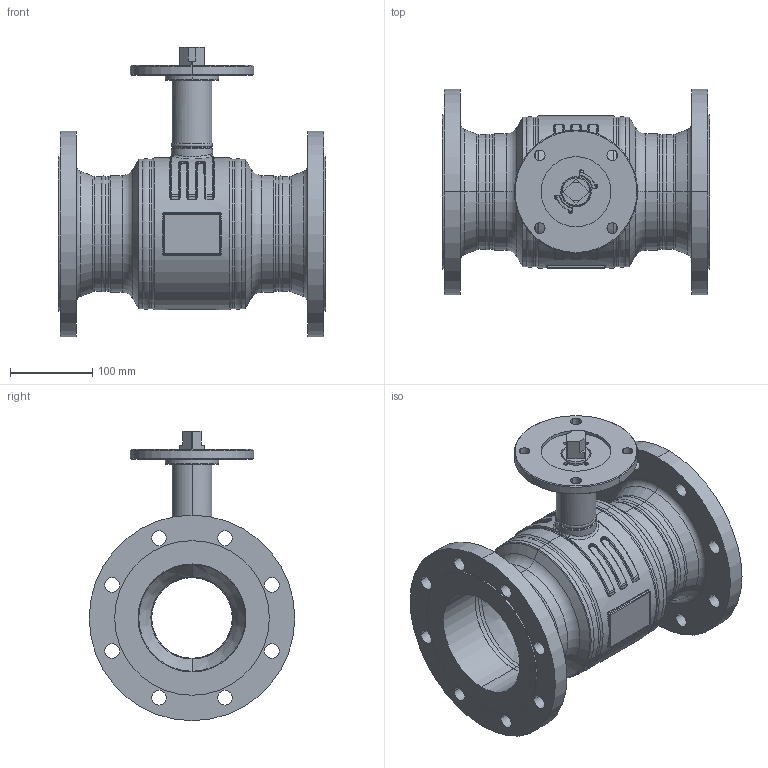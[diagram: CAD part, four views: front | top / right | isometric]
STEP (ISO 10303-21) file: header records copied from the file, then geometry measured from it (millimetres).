
FILE_DESCRIPTION((''),'2;1');
FILE_NAME('KHMO-F-R-H-125R100P01_SW0001','2025-04-23T09:04:00',('jeitlers'),('KLINGER'),'CREO PARAMETRIC BY PTC INC, 2023014','CREO PARAMETRIC BY PTC INC, 2023014','');
FILE_SCHEMA(('CONFIG_CONTROL_DESIGN'));
Length unit declared in the file: millimetre
Products named in the file (1): KHMO-F-R-H-125R100P01_SW0001
Bounding box: 325 x 250 x 352 mm (x, y, z)
Volume: 3837999.1 mm3; surface area: 804238.3 mm2
Topology: 2 solids, 3 shells, 617 faces, 1477 edges, 882 vertices
Faces by surface type: cylinder 238, torus 128, plane 111, cone 80, bspline 52, sphere 8
Entity records: 30184 total; most frequent: CARTESIAN_POINT 15679, DIRECTION 3239, ORIENTED_EDGE 2938, EDGE_CURVE 1469, AXIS2_PLACEMENT_3D 1379, VERTEX_POINT 882, CIRCLE 814, EDGE_LOOP 703
